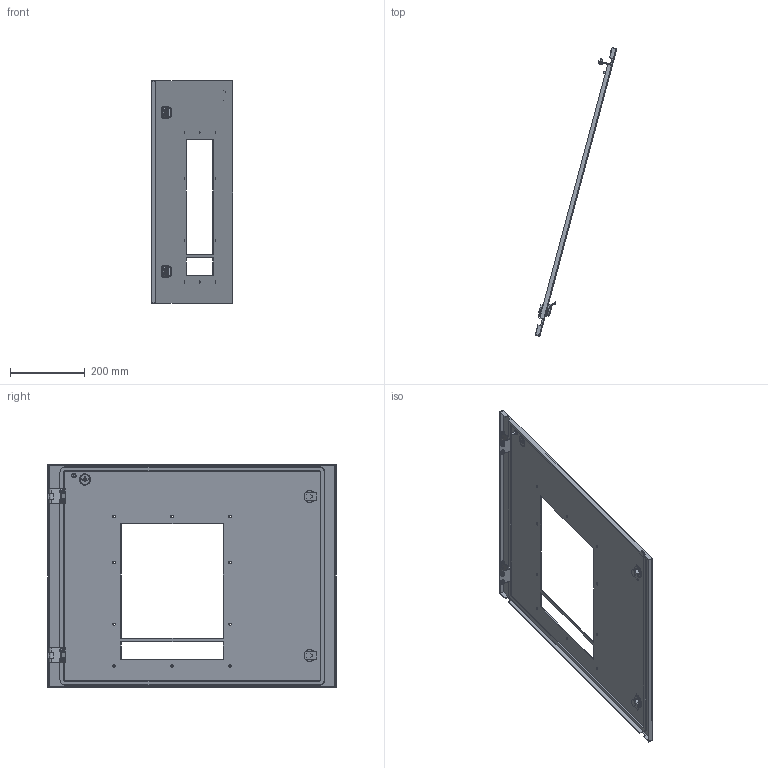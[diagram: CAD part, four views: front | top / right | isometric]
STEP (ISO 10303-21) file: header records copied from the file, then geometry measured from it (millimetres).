
FILE_DESCRIPTION (( 'STEP AP214' ), '1' );
FILE_NAME ('FO-00-ESDEF-060-080 Äâåðü ñåêöèîííàÿ âíåøíÿÿ ñ âûðåçîì äëÿ ARMAT ACB òèïîðàçìåð EIIF âûê. èñï. 3II4P 600õ800 ìì.STEP', '2025-08-20T06:47:57', ( '' ), ( '' ), 'SwSTEP 2.0', 'SolidWorks 2023', '' );
FILE_SCHEMA (( 'AUTOMOTIVE_DESIGN' ));
Length unit declared in the file: millimetre
Products named in the file (4): Петля_15.STEP; Дверь секционная внешняя с вырезом для ARMAT ACB Е 600х600 мм.STEP; FO-00-ESDEF-060-080 Дверь секционная внешняя с вырезом для ARMAT ACB типоразмер EIIF вык. исп. 3II4P 600х800 мм; FO-00-ESDEF-060-080 Дверь секционная внешняя с вырезом для ARMAT ACB типоразмер EIIF вык. исп. 3II4P 600х800 мм.STEP
Assembly tree (4 placements, depth 3):
  FO-00-ESDEF-060-080 Дверь секционная внешняя с вырезом для ARMAT ACB типоразмер EIIF вык. исп. 3II4P 600х800 мм
    FO-00-ESDEF-060-080 Дверь секционная внешняя с вырезом для ARMAT ACB типоразмер EIIF вык. исп. 3II4P 600х800 мм.STEP
      Дверь секционная внешняя с вырезом для ARMAT ACB Е 600х600 мм.STEP
      Петля_15.STEP  x2
Bounding box: 217.64 x 771.19 x 596 mm (x, y, z)
Volume: 947724.3 mm3; surface area: 854706.3 mm2
Topology: 3 solids, 12 shells, 735 faces, 1893 edges, 1224 vertices
Faces by surface type: plane 351, cylinder 288, torus 34, cone 32, bspline 30
Entity records: 21706 total; most frequent: CARTESIAN_POINT 5946, ORIENTED_EDGE 3276, DIRECTION 3258, EDGE_CURVE 1638, AXIS2_PLACEMENT_3D 1124, VERTEX_POINT 1062, LINE 1010, VECTOR 1010
